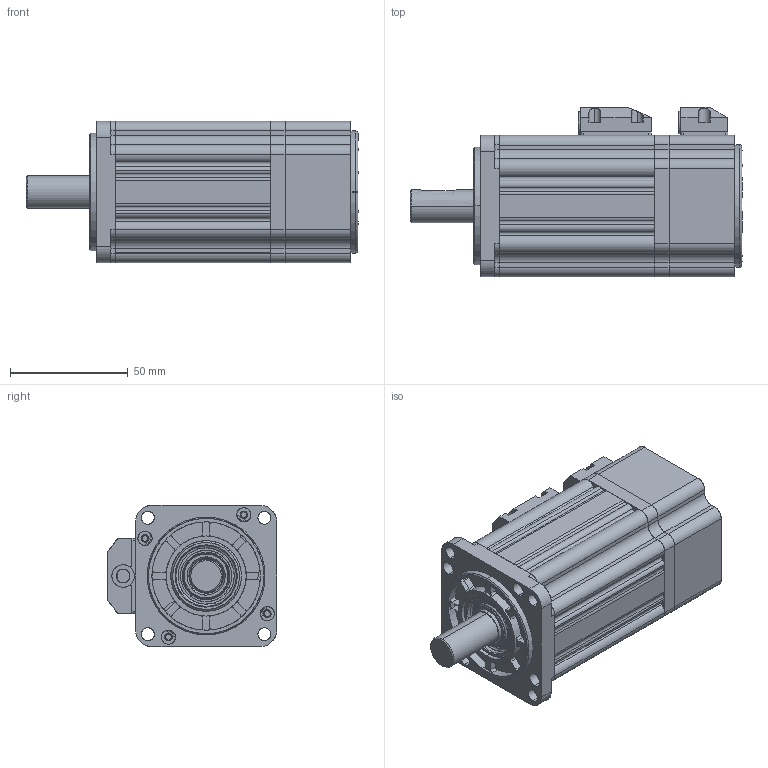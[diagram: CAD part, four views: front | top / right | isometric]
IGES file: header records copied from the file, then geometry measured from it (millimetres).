
Start section: SolidWorks IGES file using analytic representation for surfaces
Global section: file name: E:\est2012\d\17年任务\2017.01.04 外海需求电机3D图升级归档\EMJ-02APA22\EMJ-02(APA22,AFA22)without holding brake.IGS,15HSolidWorks; native system: 2015; preprocessor: SolidWorks 2015; author: hongyunting; date: 170106.103915; units: millimetre
Bounding box: 141 x 72 x 60 mm (x, y, z)
Surface area: 46758.5 mm2 (no closed solid volume)
Topology: 0 solids, 0 shells, 375 faces, 7244 edges, 7244 vertices
Faces by surface type: revolution 214, bspline 161
